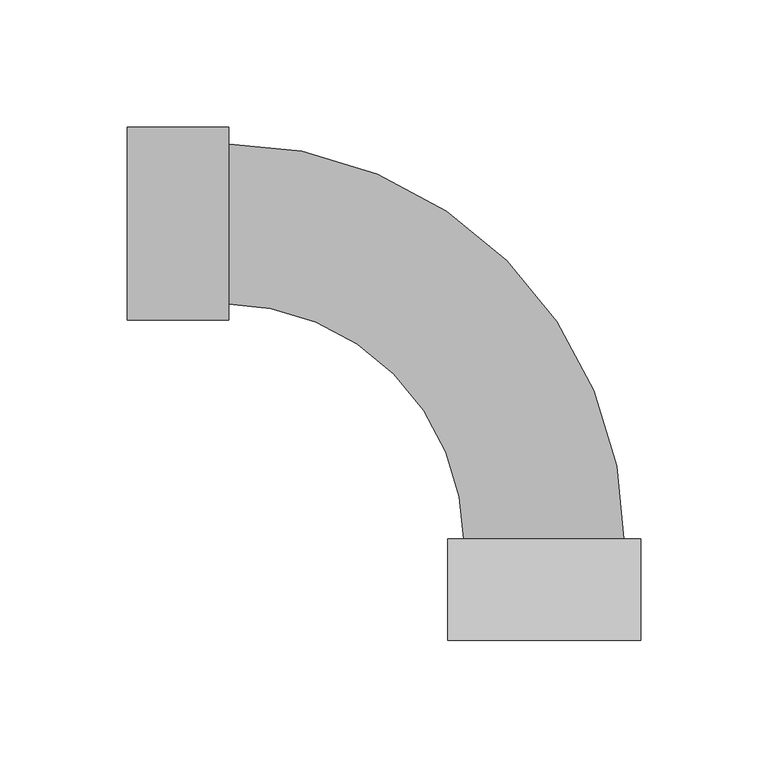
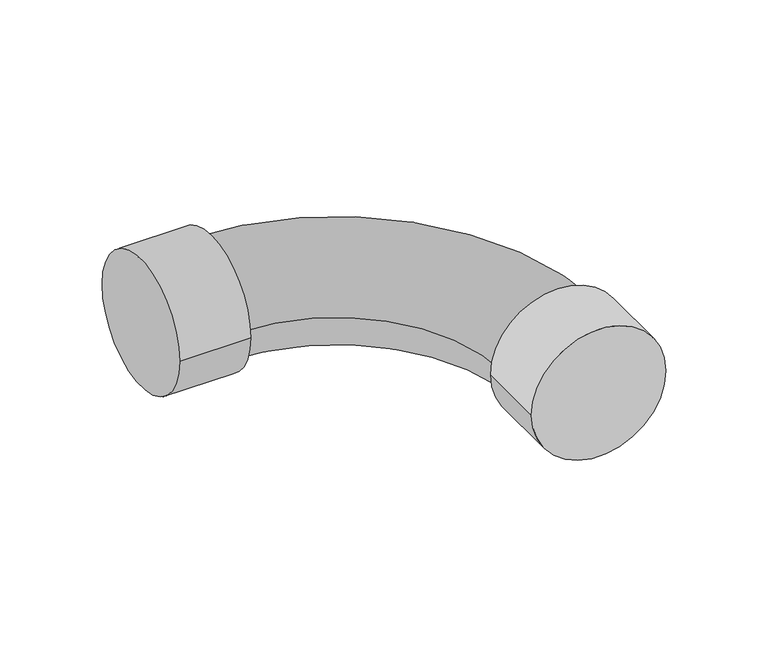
"""IFC4 building model written with IfcOpenShell, lengths in millimetres: pipe fitting geometry, 01051159 : Curva a 90º F/F."""

from ifc_helpers import new_model, si_unit, point, frame, origin, origin_2d, place, context, project, spatial, circle_curve, ellipse_curve, trimmed, segment, composite_curve, outline, extrude, source, transform, mapped, element, save
from ifc_brep_helpers import plane_surface, revolved_surface, advanced_brep


def pipe_fitting_bccf9d99(model_context):
    return source(origin(), model_context, "Body", "SolidModel", [
        extrude(outline(composite_curve([segment(trimmed(circle_curve(origin_2d(), 38.0), [point((38.0, 0.0))], [point((-38.0, 0.0))], False, "CARTESIAN"), True, "CONTINUOUS"), segment(trimmed(circle_curve(origin_2d(), 38.0), [point((-38.0, 0.0))], [point((38.0, 0.0))], False, "CARTESIAN"), True, "CONTINUOUS")], self_intersect=False)), frame((-164.0, 0.0, 0.0), z_axis=(1.0, 0.0, 0.0), x_axis=(0.0, 1.0, 0.0)), (0.0, 0.0, 1.0), 40.0),
        extrude(outline(composite_curve([segment(trimmed(circle_curve(origin_2d(), 38.0), [point((0.0, -38.0))], [point((0.0, 38.0))], False, "CARTESIAN"), True, "CONTINUOUS"), segment(trimmed(circle_curve(origin_2d(), 38.0), [point((0.0, 38.0))], [point((0.0, -38.0))], False, "CARTESIAN"), True, "CONTINUOUS")], self_intersect=False)), frame((0.0, -164.0, 0.0), z_axis=(0.0, 1.0, 0.0), x_axis=(0.0, 0.0, 1.0)), (0.0, 0.0, 1.0), 40.0),
        advanced_brep(
        [(-31.5, -126.0, 0.0), (31.5, -126.0, 0.0), (-126.0, -31.5, 0.0), (-126.0, 31.5, 0.0)],
        [
            (0, 1, circle_curve(frame((0.0, -126.0, 0.0), z_axis=(0.0, -1.0, 0.0), x_axis=(1.0, 0.0, 0.0)), 31.5)),
            (1, 0, circle_curve(frame((0.0, -126.0, 0.0), z_axis=(0.0, -1.0, 0.0), x_axis=(1.0, 0.0, 0.0)), 31.5)),
            (2, 3, circle_curve(frame((-126.0, 0.0, 0.0), z_axis=(-1.0, 0.0, 0.0), x_axis=(0.0, 1.0, 0.0)), 31.5)),
            (3, 2, circle_curve(frame((-126.0, 0.0, 0.0), z_axis=(-1.0, 0.0, 0.0), x_axis=(0.0, 1.0, 0.0)), 31.5)),
            (2, 0, circle_curve(frame((-126.0, -126.0, 0.0), z_axis=(0.0, 0.0, -1.0), x_axis=(1.0, 0.0, 0.0)), 94.5)),
            (1, 3, circle_curve(frame((-126.0, -126.0, 0.0), z_axis=(0.0, 0.0, 1.0), x_axis=(1.0, 0.0, 0.0)), 157.5)),
        ],
        [
            plane_surface(frame((0.0, -126.0, 0.0), z_axis=(0.0, -1.0, 0.0), x_axis=(0.0, 0.0, 1.0))),
            plane_surface(frame((-126.0, 0.0, 0.0), z_axis=(-1.0, 0.0, 0.0), x_axis=(0.0, 0.0, 1.0))),
            revolved_surface(trimmed(ellipse_curve(frame((0.0, -126.0, 0.0), z_axis=(0.0, 1.0, 0.0), x_axis=(1.0, 0.0, 0.0)), 31.5, 31.5), [point((-31.5, -126.0, 0.0))], [point((31.5, -126.0, 0.0))], True, "CARTESIAN"), (-126.0, -126.0, 0.0), (0.0, 0.0, -1.0)),
            revolved_surface(trimmed(ellipse_curve(frame((0.0, -126.0, 0.0), z_axis=(0.0, 1.0, 0.0), x_axis=(1.0, 0.0, 0.0)), 31.5, 31.5), [point((31.5, -126.0, 0.0))], [point((-31.5, -126.0, 0.0))], True, "CARTESIAN"), (-126.0, -126.0, 0.0), (0.0, 0.0, -1.0)),
        ],
        [
            (0, [[1, 2]]),
            (1, [[3, 4]]),
            (2, [[-3, 5, -2, 6]]),
            (3, [[-4, -6, -1, -5]]),
        ],
    ),
    ])


if __name__ == "__main__":
    model = new_model("IFC4")
    model_context = context("Model", 3, world=origin())
    ifc_project = project(units=[si_unit("LENGTHUNIT", "METRE", prefix="MILLI")], contexts=[model_context])
    site = spatial("IfcSite", under=ifc_project)
    building = spatial("IfcBuilding", under=site)
    placement = place(None, origin())
    pipe_fitting_shape = pipe_fitting_bccf9d99(model_context)
    element("IfcPipeFitting", 1, ObjectType="01051159 : Curva a 90º F/F", at=placement, inside=building, context=model_context, shape_type="MappedRepresentation", body=[
        mapped(pipe_fitting_shape, transform((0.0, 0.0, 0.0), x_axis=(1.0, 0.0, 0.0), y_axis=(0.0, 1.0, 0.0), z_axis=(0.0, 0.0, 1.0))),
    ])
    save(model, "model.ifc")
